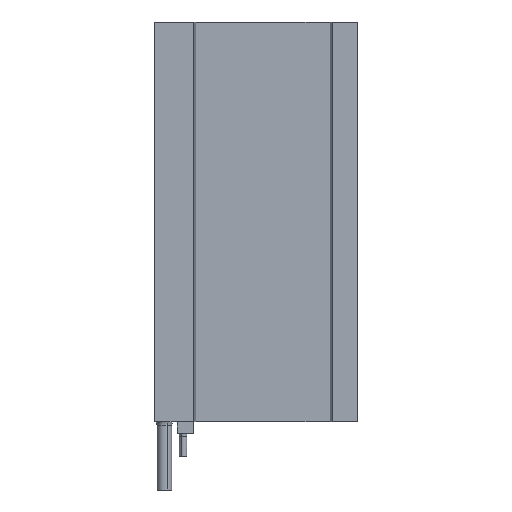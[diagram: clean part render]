
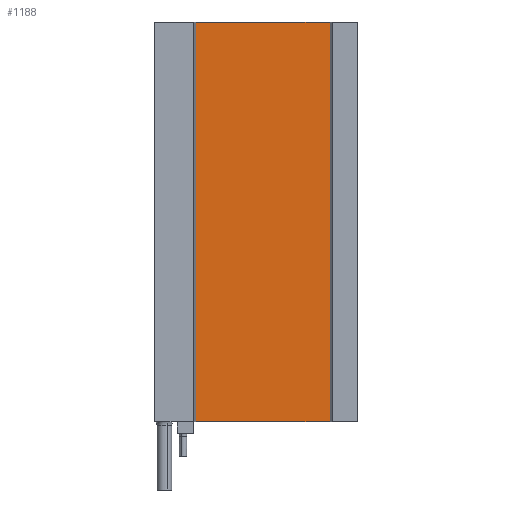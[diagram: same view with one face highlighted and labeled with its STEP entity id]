
A CAD part, left-side view. The second image highlights one B-rep face of the part: STEP entity #1188.
In plain terms, the highlighted planar face has unit normal (-1, 0, 0).
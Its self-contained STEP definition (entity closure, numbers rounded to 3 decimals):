
#692 = VECTOR ( 'NONE', #6640, 1000. ) ;
#896 = VERTEX_POINT ( 'NONE', #2011 ) ;
#1079 = CARTESIAN_POINT ( 'NONE',  ( 66.6, 298.704, 485.517 ) ) ;
#1104 = LINE ( 'NONE', #1215, #692 ) ;
#1188 = ADVANCED_FACE ( 'NONE', ( #2925 ), #6362, .F. ) ;
#1215 = CARTESIAN_POINT ( 'NONE',  ( 66.6, 300.204, 280.517 ) ) ;
#1302 = LINE ( 'NONE', #5646, #5707 ) ;
#1394 = DIRECTION ( 'NONE',  ( 1., 0., 0. ) ) ;
#1519 = LINE ( 'NONE', #1079, #4685 ) ;
#1551 = VERTEX_POINT ( 'NONE', #4180 ) ;
#1681 = VECTOR ( 'NONE', #6073, 1000. ) ;
#2011 = CARTESIAN_POINT ( 'NONE',  ( 66.6, 300.204, 485.517 ) ) ;
#2370 = ORIENTED_EDGE ( 'NONE', *, *, #6437, .F. ) ;
#2572 = EDGE_CURVE ( 'NONE', #5484, #5238, #1302, .T. ) ;
#2729 = CARTESIAN_POINT ( 'NONE',  ( 66.6, 231.204, 485.517 ) ) ;
#2925 = FACE_OUTER_BOUND ( 'NONE', #4125, .T. ) ;
#3513 = ORIENTED_EDGE ( 'NONE', *, *, #2572, .T. ) ;
#4033 = EDGE_CURVE ( 'NONE', #5484, #896, #1104, .T. ) ;
#4125 = EDGE_LOOP ( 'NONE', ( #3513, #6027, #2370, #6211 ) ) ;
#4176 = CARTESIAN_POINT ( 'NONE',  ( 66.6, 231.204, 280.517 ) ) ;
#4180 = CARTESIAN_POINT ( 'NONE',  ( 66.6, 231.204, 485.517 ) ) ;
#4626 = CARTESIAN_POINT ( 'NONE',  ( 66.6, 298.704, 485.517 ) ) ;
#4685 = VECTOR ( 'NONE', #5961, 1000. ) ;
#4700 = DIRECTION ( 'NONE',  ( 0., 0., -1. ) ) ;
#4944 = LINE ( 'NONE', #2729, #1681 ) ;
#5238 = VERTEX_POINT ( 'NONE', #4176 ) ;
#5484 = VERTEX_POINT ( 'NONE', #5820 ) ;
#5646 = CARTESIAN_POINT ( 'NONE',  ( 66.6, 298.704, 280.517 ) ) ;
#5707 = VECTOR ( 'NONE', #6814, 1000. ) ;
#5820 = CARTESIAN_POINT ( 'NONE',  ( 66.6, 300.204, 280.517 ) ) ;
#5912 = EDGE_CURVE ( 'NONE', #1551, #5238, #4944, .T. ) ;
#5961 = DIRECTION ( 'NONE',  ( 0., -1., 0. ) ) ;
#6027 = ORIENTED_EDGE ( 'NONE', *, *, #5912, .F. ) ;
#6073 = DIRECTION ( 'NONE',  ( 0., 0., -1. ) ) ;
#6211 = ORIENTED_EDGE ( 'NONE', *, *, #4033, .F. ) ;
#6362 = PLANE ( 'NONE',  #7054 ) ;
#6437 = EDGE_CURVE ( 'NONE', #896, #1551, #1519, .T. ) ;
#6640 = DIRECTION ( 'NONE',  ( 0., 0., 1. ) ) ;
#6814 = DIRECTION ( 'NONE',  ( 0., -1., 0. ) ) ;
#7054 = AXIS2_PLACEMENT_3D ( 'NONE', #4626, #1394, #4700 ) ;
